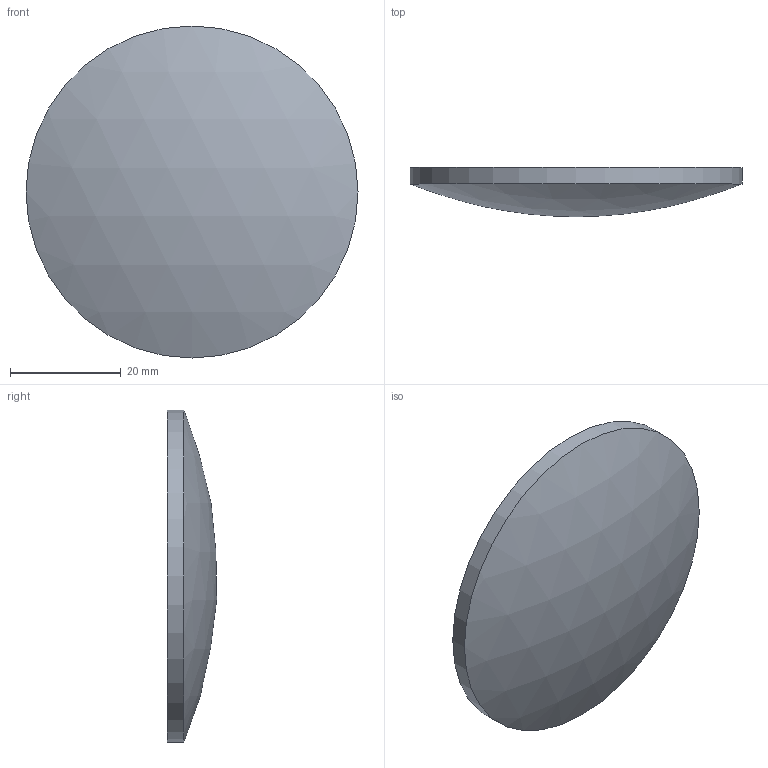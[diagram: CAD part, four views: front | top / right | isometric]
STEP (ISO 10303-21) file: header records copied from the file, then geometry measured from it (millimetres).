
FILE_DESCRIPTION((''),'2;1');
FILE_NAME('Y:\メカ関係\2能登便\素子ﾓﾃﾞﾙ（角屋さま野中さま⇒川島）\5月分\1_球面平凸レンズ-BK7\SLB-P\φ60\SLB-60-150P\SLB-60-150P.stp','2009-05-25T16:43:28',('usernoto011'),(''),'Autodesk Inventor 2008','Autodesk Inventor 2008','');
FILE_SCHEMA(('AUTOMOTIVE_DESIGN { 1 0 10303 214 1 1 1 1 }'));
Length unit declared in the file: millimetre
Products named in the file (1): SLB-60-150P
Bounding box: 60 x 8.88 x 60 mm (x, y, z)
Volume: 17060.7 mm3; surface area: 6331.6 mm2
Topology: 1 solids, 1 shells, 3 faces, 3 edges, 2 vertices
Faces by surface type: sphere 1, cylinder 1, plane 1
Full cylindrical faces by diameter (mm): 60 x1
Entity records: 80 total; most frequent: DIRECTION 12, CARTESIAN_POINT 8, AXIS2_PLACEMENT_3D 6, ORIENTED_EDGE 4, EDGE_LOOP 4, FACE_OUTER_BOUND 3, ADVANCED_FACE 3, DIMENSIONAL_EXPONENTS 2
